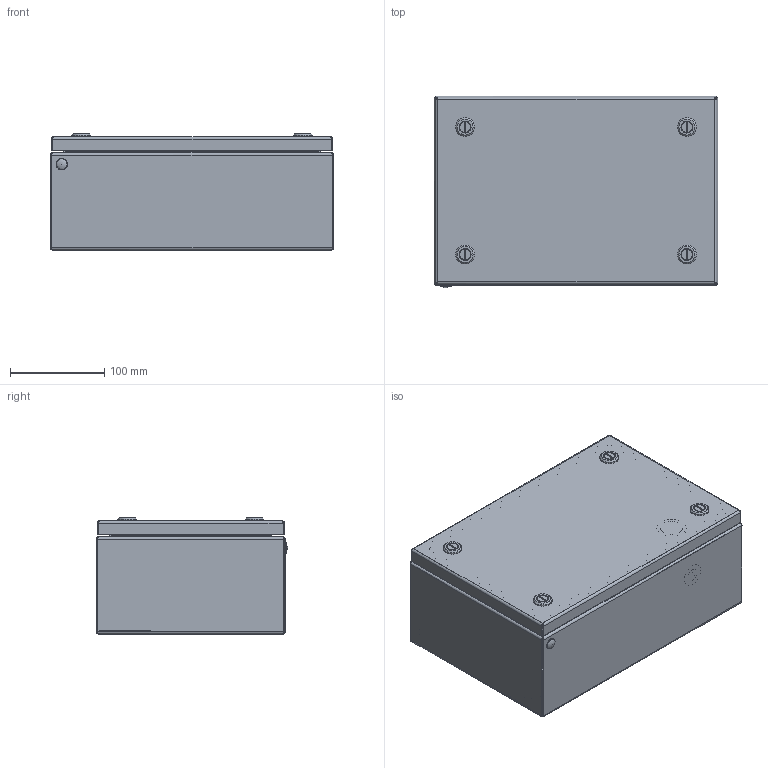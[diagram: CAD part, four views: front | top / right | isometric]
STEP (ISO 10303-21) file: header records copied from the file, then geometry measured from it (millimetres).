
FILE_DESCRIPTION (( 'STEP AP214' ), '1' );
FILE_NAME ('BCS 20.30.12 Êîðîáêà.STEP', '2023-06-15T08:47:06', ( '' ), ( '' ), 'SwSTEP 2.0', 'SolidWorks 2019', '' );
FILE_SCHEMA (( 'AUTOMOTIVE_DESIGN' ));
Length unit declared in the file: millimetre
Products named in the file (1): BCS 20.30.12 Êîðîáêà
Bounding box: 300 x 202.5 x 123 mm (x, y, z)
Volume: 448932.2 mm3; surface area: 680355.9 mm2
Topology: 37 solids, 37 shells, 1983 faces, 4951 edges, 3111 vertices
Faces by surface type: plane 1082, cylinder 592, cone 122, bspline 118, torus 52, sphere 17
Entity records: 95279 total; most frequent: CARTESIAN_POINT 26961, ORIENTED_EDGE 9864, DIRECTION 9078, EDGE_CURVE 4932, VERTEX_POINT 3109, AXIS2_PLACEMENT_3D 3050, VECTOR 2978, LINE 2978
